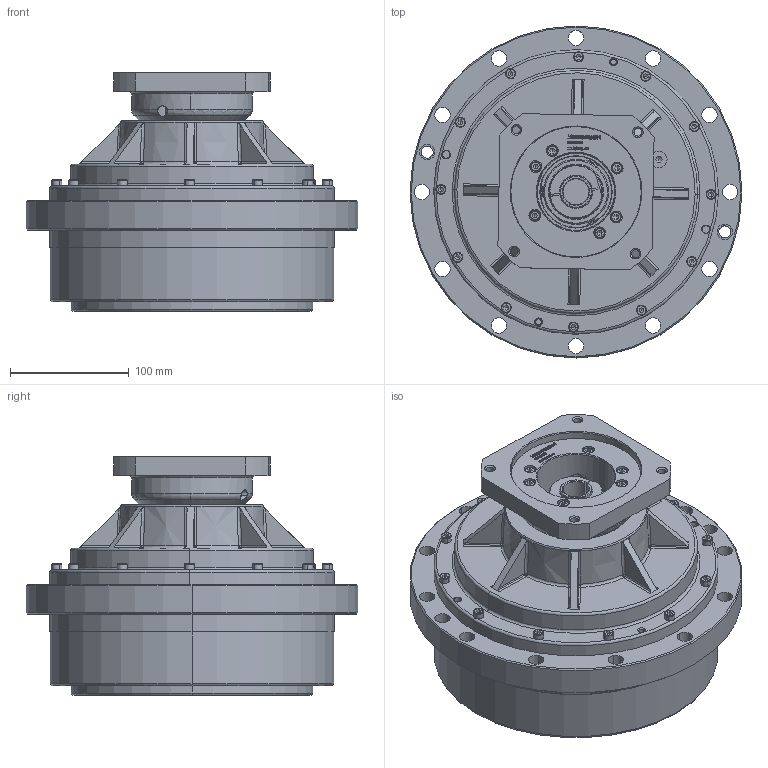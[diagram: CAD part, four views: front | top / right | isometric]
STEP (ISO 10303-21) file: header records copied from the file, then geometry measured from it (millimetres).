
FILE_DESCRIPTION (( 'STEP AP214' ), '1' );
FILE_NAME ('280BX-assy-110145M8H42.STEP', '2022-11-11T08:45:39', ( '' ), ( '' ), 'SwSTEP 2.0', 'SolidWorks 2020', '' );
FILE_SCHEMA (( 'AUTOMOTIVE_DESIGN' ));
Length unit declared in the file: millimetre
Products named in the file (11): 280BX-assy-110145M8H42; 萇儂假蚾楊擘110-145H42.stp; ZD-280BX-611-RVA-24.stp; 蹟隊 GB_T 70.1 M5 x 20.stp; 280BX-assy-110145M8H42.stp; 錨璃1129^280BX-assy-110145M8H42; 坶踡ん27-45.stp; DIN 908 - M10 x 1.stp; 280BX-OP-01.stp; 蹟隊 GB_T 70.1 M5 x 30.stp; 280BX输入法兰 A70.stp
Assembly tree (26 placements, depth 3):
  280BX-assy-110145M8H42
    280BX-assy-110145M8H42.stp
      280BX-OP-01.stp
      280BX输入法兰 A70.stp
      ZD-280BX-611-RVA-24.stp
      坶踡ん27-45.stp
      蹟隊 GB_T 70.1 M5 x 20.stp  x6
      蹟隊 GB_T 70.1 M5 x 30.stp  x12
      DIN 908 - M10 x 1.stp
      萇儂假蚾楊擘110-145H42.stp
    錨璃1129^280BX-assy-110145M8H42
Bounding box: 280 x 280 x 201.4 mm (x, y, z)
Volume: 5607433 mm3; surface area: 600507.4 mm2
Topology: 90 solids, 91 shells, 3469 faces, 8839 edges, 5604 vertices
Faces by surface type: plane 1514, bspline 636, cylinder 552, cone 500, torus 139, sphere 128
Entity records: 139697 total; most frequent: CARTESIAN_POINT 48598, ORIENTED_EDGE 15802, DIRECTION 13052, EDGE_CURVE 7901, VERTEX_POINT 5076, LINE 4646, VECTOR 4646, AXIS2_PLACEMENT_3D 4203
